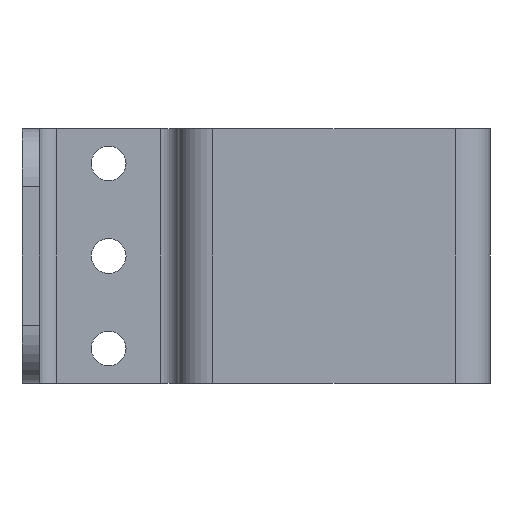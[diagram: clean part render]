
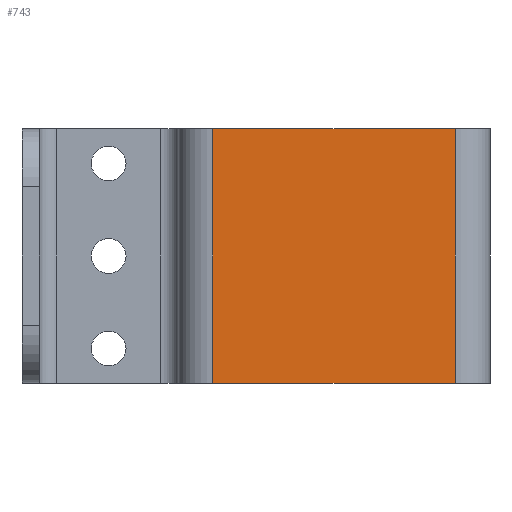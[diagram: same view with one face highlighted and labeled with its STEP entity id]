
A CAD part, front view. The second image highlights one B-rep face of the part: STEP entity #743.
In plain terms, the highlighted planar face has unit normal (0, -1, 0).
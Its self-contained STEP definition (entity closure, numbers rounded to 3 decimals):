
#49=PLANE('',#844);
#93=FACE_OUTER_BOUND('',#144,.T.);
#144=EDGE_LOOP('',(#674,#675,#676,#677));
#200=LINE('',#1246,#267);
#207=LINE('',#1266,#274);
#210=LINE('',#1273,#277);
#212=LINE('',#1276,#279);
#267=VECTOR('',#1022,10.);
#274=VECTOR('',#1047,10.);
#277=VECTOR('',#1054,2.16);
#279=VECTOR('',#1058,10.);
#369=VERTEX_POINT('',#1243);
#370=VERTEX_POINT('',#1245);
#374=VERTEX_POINT('',#1264);
#376=VERTEX_POINT('',#1272);
#459=EDGE_CURVE('',#370,#369,#200,.T.);
#469=EDGE_CURVE('',#374,#369,#207,.T.);
#472=EDGE_CURVE('',#370,#376,#210,.T.);
#474=EDGE_CURVE('',#374,#376,#212,.T.);
#674=ORIENTED_EDGE('',*,*,#459,.T.);
#675=ORIENTED_EDGE('',*,*,#469,.F.);
#676=ORIENTED_EDGE('',*,*,#474,.T.);
#677=ORIENTED_EDGE('',*,*,#472,.F.);
#743=ADVANCED_FACE('',(#93),#49,.F.);
#844=AXIS2_PLACEMENT_3D('',#1283,#1071,#1072);
#1022=DIRECTION('',(0.,0.,1.));
#1047=DIRECTION('',(1.,0.,0.));
#1054=DIRECTION('',(-1.,0.,0.));
#1058=DIRECTION('',(0.,0.,-1.));
#1071=DIRECTION('center_axis',(0.,1.,0.));
#1072=DIRECTION('ref_axis',(0.,0.,
-1.));
#1243=CARTESIAN_POINT('',(24.,-35.,11.));
#1245=CARTESIAN_POINT('',(24.,-35.,-11.));
#1246=CARTESIAN_POINT('',(24.,-35.,-5.5));
#1264=CARTESIAN_POINT('',(3.,-35.,11.));
#1266=CARTESIAN_POINT('',(3.,-35.,11.));
#1272=CARTESIAN_POINT('',(3.,-35.,-11.));
#1273=CARTESIAN_POINT('',(-3.786,-35.,-11.));
#1276=CARTESIAN_POINT('',(3.,-35.,0.));
#1283=CARTESIAN_POINT('Origin',(13.304,-35.,0.));
